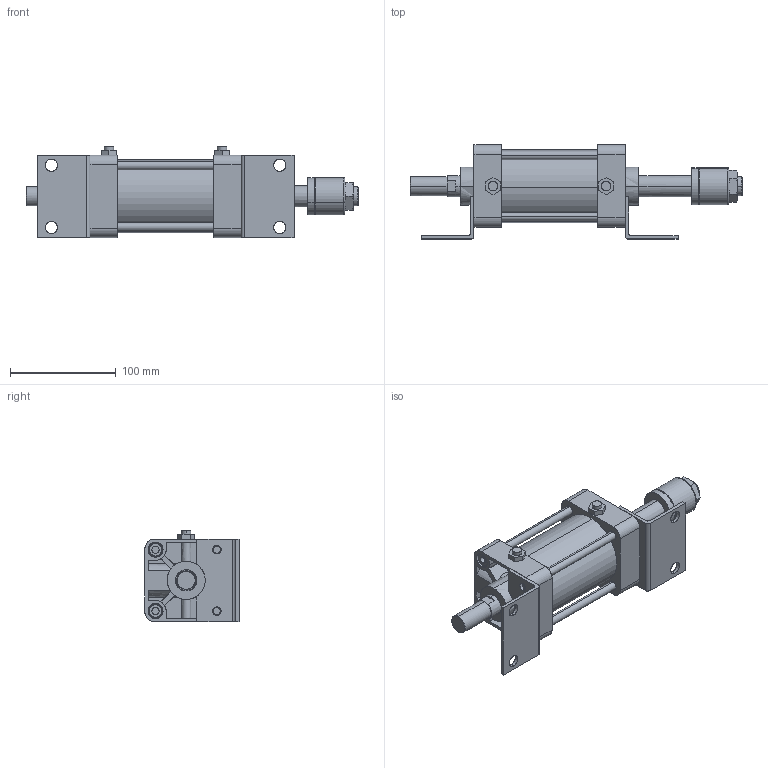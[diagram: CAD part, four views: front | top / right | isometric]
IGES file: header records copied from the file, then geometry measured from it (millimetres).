
Start section: SolidWorks IGES file using analytic representation for surfaces
Global section: file name: C:\Users\Toshiba\Desktop\KGA7-63#-50-L.IGS; native system: SolidWorks 2014; preprocessor: SolidWorks 2014; author: Toshiba; date: 160414.155137; units: millimetre
Bounding box: 314 x 89 x 86.3 mm (x, y, z)
Surface area: 163403.1 mm2 (no closed solid volume)
Topology: 0 solids, 0 shells, 409 faces, 6866 edges, 6862 vertices
Faces by surface type: bspline 223, revolution 186
